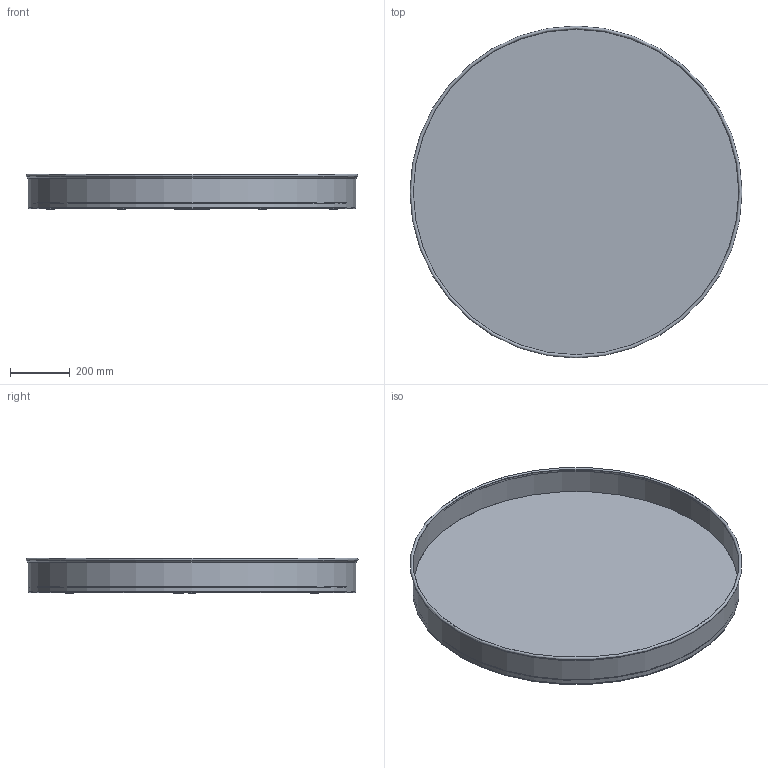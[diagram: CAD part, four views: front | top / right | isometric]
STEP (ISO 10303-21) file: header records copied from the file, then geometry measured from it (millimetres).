
FILE_DESCRIPTION(/* description */ (''),/* implementation_level */ '2;1');
FILE_NAME(/* name */ 'C:\AutodeskVault\AreaLavoro\Progetti\SoVeT Italia\3. Specchi_Mirrors\Horizon\Web file\Horizon Web\P5318.stp',/* time_stamp */ '2015-01-21T10:47:09+01:00',/* author */ ('Gianluca'),/* organization */ ('So.Ve.T. s.r.l.'),/* preprocessor_version */ 'ST-DEVELOPER v15.2',/* originating_system */ 'Autodesk Inventor 2014',/* authorisation */ 'IL PROGETTO E'' DI ESCLUSIVA PROPRIETA'' DELLA SO.VE.T. srl. E'' VIETATA OGNI RIPRODUZIONE TOTALE O PARZIALE E QUALSIASI UTILIZZO NON AUTORIZZATO.');
FILE_SCHEMA (('AUTOMOTIVE_DESIGN { 1 0 10303 214 3 1 1 }'));
Length unit declared in the file: centimetre
Products named in the file (1): P5318 Contorno semplificato
Bounding box: 1115 x 1115 x 119 mm (x, y, z)
Volume: 6529268.3 mm3; surface area: 4638570.2 mm2
Topology: 1 solids, 2 shells, 60 faces, 130 edges, 84 vertices
Faces by surface type: plane 28, cylinder 23, cone 5, torus 4
Full cylindrical faces by diameter (mm): 3 x6, 6 x3, 25 x6, 200 x1, 1093 x1, 1095 x2, 1099 x2
Entity records: 1505 total; most frequent: DIRECTION 262, CARTESIAN_POINT 217, ORIENTED_EDGE 174, AXIS2_PLACEMENT_3D 115, EDGE_LOOP 110, EDGE_CURVE 86, VERTEX_POINT 70, STYLED_ITEM 61
